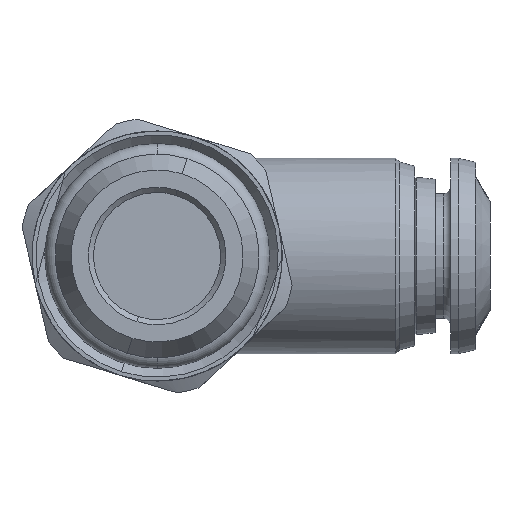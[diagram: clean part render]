
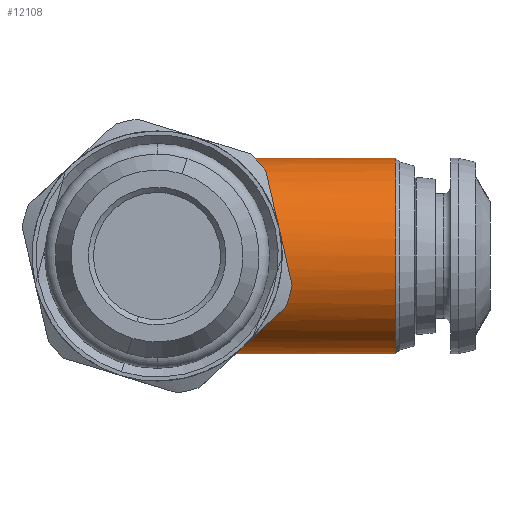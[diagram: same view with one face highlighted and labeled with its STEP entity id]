
A CAD part, front view. The second image highlights one B-rep face of the part: STEP entity #12108.
In plain terms, the highlighted cylindrical face has radius 6.25 mm (diameter 12.5 mm), a partial arc.
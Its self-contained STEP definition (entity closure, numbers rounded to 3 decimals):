
#25 = CARTESIAN_POINT ( 'NONE',  ( 4.731, -4.731, 4.884 ) ) ;
#30 = CARTESIAN_POINT ( 'NONE',  ( 2.228, -2.228, 5.839 ) ) ;
#35 = CARTESIAN_POINT ( 'NONE',  ( 6.25, -6.25, 2.678 ) ) ;
#36 = CARTESIAN_POINT ( 'NONE',  ( 6.25, -6.25, 0. ) ) ;
#58 = CARTESIAN_POINT ( 'NONE',  ( 0., 0., -6.25 ) ) ;
#59 = DIRECTION ( 'NONE',  ( -1., 0., 0. ) ) ;
#75 = CARTESIAN_POINT ( 'NONE',  ( 0., 0., 6.25 ) ) ;
#76 = DIRECTION ( 'NONE',  ( -1., 0., 0. ) ) ;
#89 = CARTESIAN_POINT ( 'NONE',  ( 6.25, -6.25, 0. ) ) ;
#93 = CARTESIAN_POINT ( 'NONE',  ( 2.825, 0., 6.25 ) ) ;
#94 = CARTESIAN_POINT ( 'NONE',  ( 2.621, -0.764, 6.25 ) ) ;
#95 = CARTESIAN_POINT ( 'NONE',  ( 15.268, 0., 0. ) ) ;
#96 = DIRECTION ( 'NONE',  ( -1., 0., 0. ) ) ;
#97 = DIRECTION ( 'NONE',  ( 0., 0., 1. ) ) ;
#98 = CARTESIAN_POINT ( 'NONE',  ( 6.25, -6.25, -2.678 ) ) ;
#99 = CARTESIAN_POINT ( 'NONE',  ( 2.419, -1.515, 6.112 ) ) ;
#100 = CARTESIAN_POINT ( 'NONE',  ( 2.228, -2.228, 5.839 ) ) ;
#101 = CARTESIAN_POINT ( 'NONE',  ( 2.419, -1.515, -6.112 ) ) ;
#102 = CARTESIAN_POINT ( 'NONE',  ( 2.228, -2.228, -5.839 ) ) ;
#103 = CARTESIAN_POINT ( 'NONE',  ( 4.731, -4.731, -4.884 ) ) ;
#104 = CARTESIAN_POINT ( 'NONE',  ( 2.228, -2.228, -5.839 ) ) ;
#105 = CARTESIAN_POINT ( 'NONE',  ( 2.621, -0.764, -6.25 ) ) ;
#106 = CARTESIAN_POINT ( 'NONE',  ( 2.825, 0., -6.25 ) ) ;
#283 = DIRECTION ( 'NONE',  ( -1., 0., 0. ) ) ;
#294 = CARTESIAN_POINT ( 'NONE',  ( 0., 0., 0. ) ) ;
#302 = DIRECTION ( 'NONE',  ( 0., 0., 1. ) ) ;
#2317 = CARTESIAN_POINT ( 'NONE',  ( 2.228, -2.228, -5.839 ) ) ;
#3033 = CARTESIAN_POINT ( 'NONE',  ( 2.825, 0., -6.25 ) ) ;
#3034 = CARTESIAN_POINT ( 'NONE',  ( 2.228, -2.228, 5.839 ) ) ;
#3036 = CARTESIAN_POINT ( 'NONE',  ( 6.25, -6.25, 0. ) ) ;
#3043 = CARTESIAN_POINT ( 'NONE',  ( 15.268, 0., 6.25 ) ) ;
#3044 = CARTESIAN_POINT ( 'NONE',  ( 15.268, 0., -6.25 ) ) ;
#3143 = CARTESIAN_POINT ( 'NONE',  ( 2.825, 0., 6.25 ) ) ;
#4601 = ORIENTED_EDGE ( 'NONE', *, *, #10362, .F. ) ;
#4602 = ORIENTED_EDGE ( 'NONE', *, *, #10374, .T. ) ;
#4603 = ORIENTED_EDGE ( 'NONE', *, *, #10367, .T. ) ;
#4604 = ORIENTED_EDGE ( 'NONE', *, *, #10375, .T. ) ;
#4605 = ORIENTED_EDGE ( 'NONE', *, *, #10355, .T. ) ;
#4606 = ORIENTED_EDGE ( 'NONE', *, *, #10376, .T. ) ;
#4803 = AXIS2_PLACEMENT_3D ( 'NONE', #95, #96, #97 ) ;
#4847 = AXIS2_PLACEMENT_3D ( 'NONE', #294, #283, #302 ) ;
#5306 =( BOUNDED_CURVE ( )  B_SPLINE_CURVE ( 3, ( #30, #25, #35, #36 ),
 .UNSPECIFIED., .F., .F. ) 
 B_SPLINE_CURVE_WITH_KNOTS ( ( 4, 4 ),
 ( 1.935, 3.142 ),
 .UNSPECIFIED. ) 
 CURVE ( )  GEOMETRIC_REPRESENTATION_ITEM ( )  RATIONAL_B_SPLINE_CURVE ( ( 1., 0.882, 0.882, 1. ) ) 
 REPRESENTATION_ITEM ( '' )  );
#5316 =( BOUNDED_CURVE ( )  B_SPLINE_CURVE ( 3, ( #93, #94, #99, #100 ),
 .UNSPECIFIED., .F., .F. ) 
 B_SPLINE_CURVE_WITH_KNOTS ( ( 4, 4 ),
 ( 4.712, 5.077 ),
 .UNSPECIFIED. ) 
 CURVE ( )  GEOMETRIC_REPRESENTATION_ITEM ( )  RATIONAL_B_SPLINE_CURVE ( ( 1., 0.989, 0.989, 1. ) ) 
 REPRESENTATION_ITEM ( '' )  );
#5317 =( BOUNDED_CURVE ( )  B_SPLINE_CURVE ( 3, ( #89, #98, #103, #104 ),
 .UNSPECIFIED., .F., .F. ) 
 B_SPLINE_CURVE_WITH_KNOTS ( ( 4, 4 ),
 ( 3.142, 4.348 ),
 .UNSPECIFIED. ) 
 CURVE ( )  GEOMETRIC_REPRESENTATION_ITEM ( )  RATIONAL_B_SPLINE_CURVE ( ( 1., 0.882, 0.882, 1. ) ) 
 REPRESENTATION_ITEM ( '' )  );
#5318 =( BOUNDED_CURVE ( )  B_SPLINE_CURVE ( 3, ( #102, #101, #105, #106 ),
 .UNSPECIFIED., .F., .F. ) 
 B_SPLINE_CURVE_WITH_KNOTS ( ( 4, 4 ),
 ( 1.206, 1.571 ),
 .UNSPECIFIED. ) 
 CURVE ( )  GEOMETRIC_REPRESENTATION_ITEM ( )  RATIONAL_B_SPLINE_CURVE ( ( 1., 0.989, 0.989, 1. ) ) 
 REPRESENTATION_ITEM ( '' )  );
#6716 = EDGE_LOOP ( 'NONE', ( #4601, #4602, #4603, #4604, #4605, #4606, #11400 ) ) ;
#8913 = VERTEX_POINT ( 'NONE', #3033 ) ;
#8915 = VERTEX_POINT ( 'NONE', #3034 ) ;
#8918 = VERTEX_POINT ( 'NONE', #3036 ) ;
#8925 = VERTEX_POINT ( 'NONE', #3043 ) ;
#8926 = VERTEX_POINT ( 'NONE', #3044 ) ;
#9025 = VERTEX_POINT ( 'NONE', #3143 ) ;
#9857 = LINE ( 'NONE', #58, #9861 ) ;
#9860 = LINE ( 'NONE', #75, #9863 ) ;
#9861 = VECTOR ( 'NONE', #59, 1000. ) ;
#9863 = VECTOR ( 'NONE', #76, 1000. ) ;
#9870 = CIRCLE ( 'NONE', #4803, 6.25 ) ;
#9908 = FACE_OUTER_BOUND ( 'NONE', #6716, .T. ) ;
#9916 = CYLINDRICAL_SURFACE ( 'NONE', #4847, 6.25 ) ;
#10355 = EDGE_CURVE ( 'NONE', #8915, #8918, #5306, .T. ) ;
#10362 = EDGE_CURVE ( 'NONE', #8926, #8913, #9857, .T. ) ;
#10367 = EDGE_CURVE ( 'NONE', #8925, #9025, #9860, .T. ) ;
#10374 = EDGE_CURVE ( 'NONE', #8926, #8925, #9870, .T. ) ;
#10375 = EDGE_CURVE ( 'NONE', #9025, #8915, #5316, .T. ) ;
#10376 = EDGE_CURVE ( 'NONE', #8918, #12259, #5317, .T. ) ;
#10377 = EDGE_CURVE ( 'NONE', #12259, #8913, #5318, .T. ) ;
#11400 = ORIENTED_EDGE ( 'NONE', *, *, #10377, .T. ) ;
#12108 = ADVANCED_FACE ( 'NONE', ( #9908 ), #9916, .T. ) ;
#12259 = VERTEX_POINT ( 'NONE', #2317 ) ;
